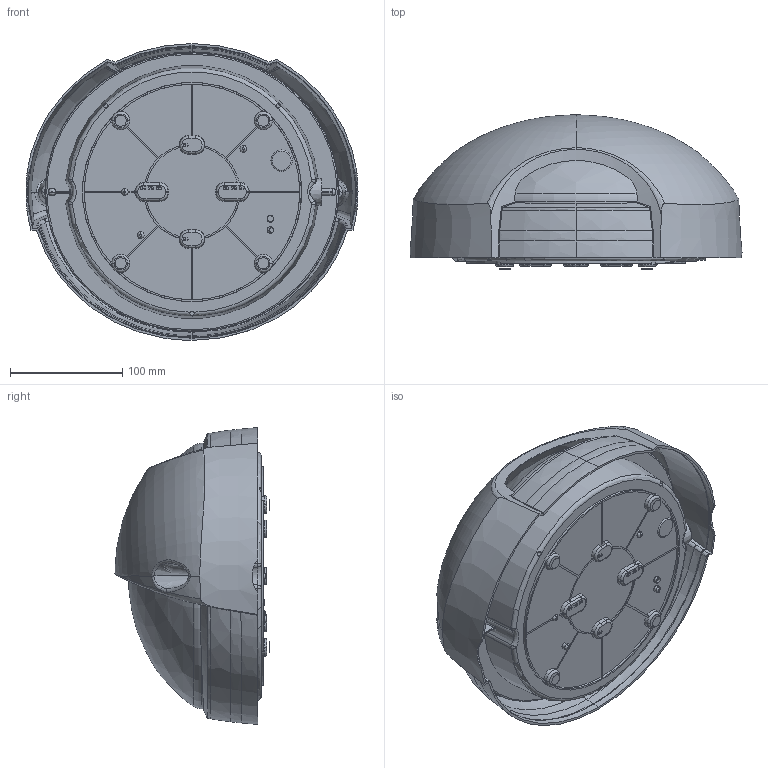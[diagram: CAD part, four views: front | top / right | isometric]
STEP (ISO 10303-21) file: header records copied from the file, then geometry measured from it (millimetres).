
FILE_DESCRIPTION((''),'2;1');
FILE_NAME('AIRY_TOP_TONDA_300','2025-07-29T09:54:07',('Minervini'),(''),'CREO PARAMETRIC BY PTC INC, 2025010','CREO PARAMETRIC BY PTC INC, 2025010','');
FILE_SCHEMA(('CONFIG_CONTROL_DESIGN'));
Length unit declared in the file: millimetre
Products named in the file (1): AIRY_TOP_TONDA_300
Bounding box: 296.39 x 137.49 x 265 mm (x, y, z)
Surface area: 471263.4 mm2 (no closed solid volume)
Topology: 0 solids, 41 shells, 326 faces, 1664 edges, 1331 vertices
Faces by surface type: bspline 159, plane 60, cone 57, torus 28, cylinder 16, extrusion 4, revolution 2
Entity records: 52615 total; most frequent: CARTESIAN_POINT 41778, ORIENTED_EDGE 2191, EDGE_CURVE 1662, DIRECTION 1612, VERTEX_POINT 1331, B_SPLINE_CURVE_WITH_KNOTS 741, VECTOR 574, LINE 570
